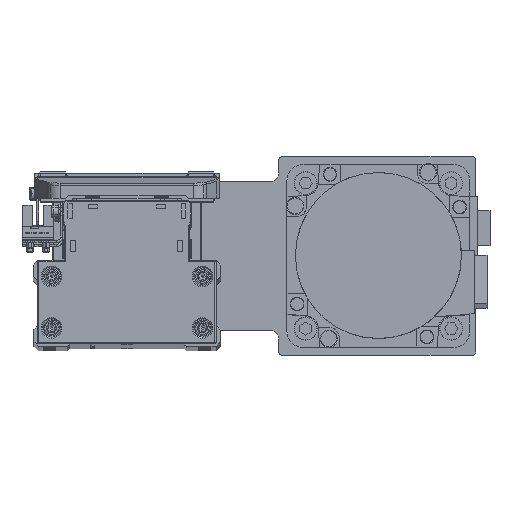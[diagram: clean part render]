
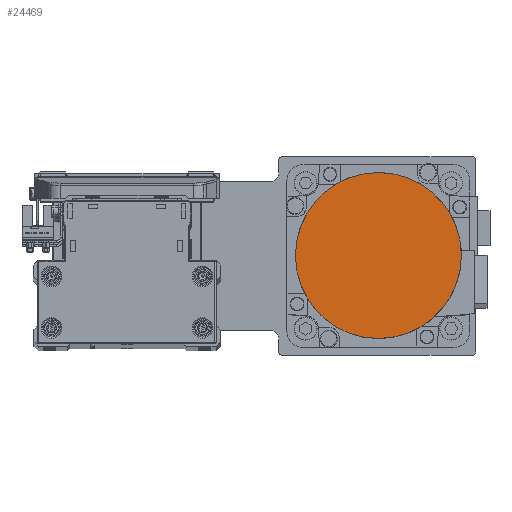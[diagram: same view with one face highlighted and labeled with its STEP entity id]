
A CAD part, top view. The second image highlights one B-rep face of the part: STEP entity #24469.
In plain terms, the highlighted planar face has unit normal (0, 0, 1) as drawn and (0, 0, -1) by its records, which use the part's own axes.
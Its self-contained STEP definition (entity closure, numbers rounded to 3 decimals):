
#347 = CIRCLE ( 'NONE', #23107, 36.3 ) ;
#1006 = VERTEX_POINT ( 'NONE', #30341 ) ;
#1082 = DIRECTION ( 'NONE',  ( 0., 0., 1. ) ) ;
#3372 = DIRECTION ( 'NONE',  ( 0., 0., 1. ) ) ;
#4129 = FACE_OUTER_BOUND ( 'NONE', #11112, .T. ) ;
#4133 = VERTEX_POINT ( 'NONE', #17105 ) ;
#7954 = DIRECTION ( 'NONE',  ( 0., -1., 0. ) ) ;
#11112 = EDGE_LOOP ( 'NONE', ( #15136, #31286 ) ) ;
#13504 = DIRECTION ( 'NONE',  ( 1., 0., 0. ) ) ;
#15136 = ORIENTED_EDGE ( 'NONE', *, *, #35394, .F. ) ;
#15806 = DIRECTION ( 'NONE',  ( 0., 1., 0. ) ) ;
#16554 = PLANE ( 'NONE',  #27515 ) ;
#17105 = CARTESIAN_POINT ( 'NONE',  ( 0., -36.3, -122.2 ) ) ;
#17557 = AXIS2_PLACEMENT_3D ( 'NONE', #31262, #3372, #15806 ) ;
#23107 = AXIS2_PLACEMENT_3D ( 'NONE', #23424, #35839, #7954 ) ;
#23424 = CARTESIAN_POINT ( 'NONE',  ( 0., 0., -122.2 ) ) ;
#24469 = ADVANCED_FACE ( 'NONE', ( #4129 ), #16554, .F. ) ;
#27515 = AXIS2_PLACEMENT_3D ( 'NONE', #28966, #1082, #13504 ) ;
#28966 = CARTESIAN_POINT ( 'NONE',  ( 0., 0., -122.2 ) ) ;
#30341 = CARTESIAN_POINT ( 'NONE',  ( 0., 36.3, -122.2 ) ) ;
#31262 = CARTESIAN_POINT ( 'NONE',  ( 0., 0., -122.2 ) ) ;
#31286 = ORIENTED_EDGE ( 'NONE', *, *, #39099, .F. ) ;
#35112 = CIRCLE ( 'NONE', #17557, 36.3 ) ;
#35394 = EDGE_CURVE ( 'NONE', #1006, #4133, #35112, .T. ) ;
#35839 = DIRECTION ( 'NONE',  ( 0., 0., 1. ) ) ;
#39099 = EDGE_CURVE ( 'NONE', #4133, #1006, #347, .T. ) ;
